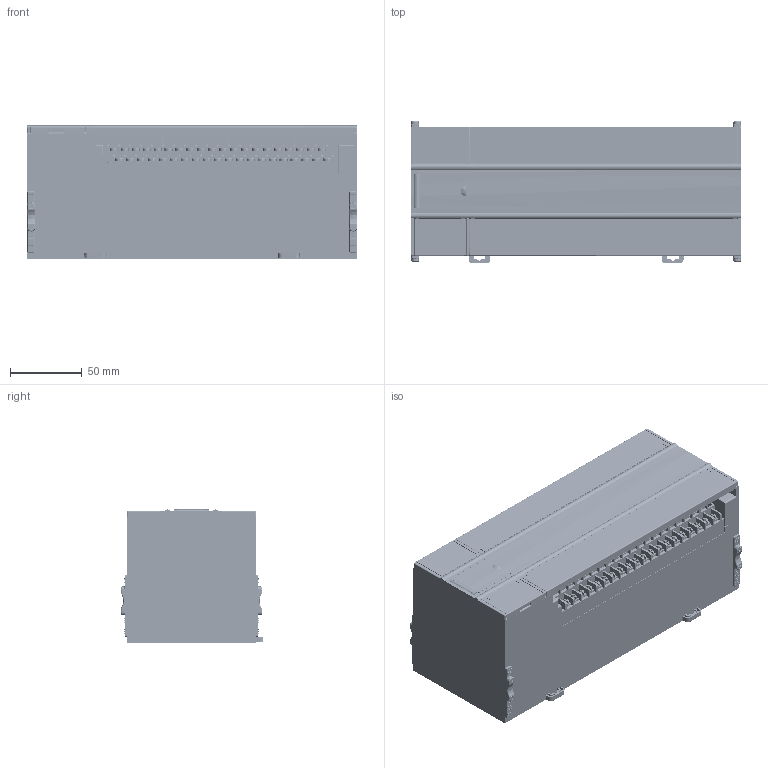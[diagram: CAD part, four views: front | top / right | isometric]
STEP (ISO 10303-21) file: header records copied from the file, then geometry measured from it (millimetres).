
FILE_DESCRIPTION((''),'2;1');
FILE_NAME('0-VC3-3232MAT_ASM','2022-11-11T',('v3615'),(''),'CREO PARAMETRIC BY PTC INC, 2016260','CREO PARAMETRIC BY PTC INC, 2016260','');
FILE_SCHEMA(('AUTOMOTIVE_DESIGN { 1 0 10303 214 1 1 1 1 }'));
Products named in the file (67): PLC_SKEL0001-VC3-3232; VC3-3232MAT-P001; VC3-3232MAT-P001_ASM; VC3-3232MAT-P002; VC1-1614MAT-P005; VC1-1614MAT-P007; VC3-3232MAT-P006_ASM; VC3-3232MAT-P005; VC3-3232MAT-P007_ASM; VC3-3232MAT-P003; VC3-3232MAT-P004; VC1-1614MAT-P003; VC1-1614MAT-P006; VC1-1614MAT-P008; VC1-1614MAT-P010; VC1-1614MAT-P009; VC3-3232MAT-P_ASM; PRT0002; SOP4-100-173A; CAPC2-80-200-440; SD1812; F2-200B; LR4-280-320; SOT23; SR0603; SOP8-50-157; SD2215; SC0805; TO220-3L-9; SOP8-50-155; DO2-170-110-48; LC2-197A; SR1206; CAP2-400-13X5; HEAD0207-TA; TO220-3T-B; CAPC2-400-1000-1000-F; CAP2-400-10X8; SC0603; SR0805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
Assembly tree (145 placements, depth 4):
  0-VC3-3232MAT_ASM
    PLC_SKEL0001-VC3-3232
    VC3-3232MAT-P_ASM
      VC3-3232MAT-P001_ASM
        VC3-3232MAT-P001
      VC3-3232MAT-P006_ASM
        VC3-3232MAT-P002
        VC1-1614MAT-P005  x4
        VC1-1614MAT-P007
      VC3-3232MAT-P007_ASM
        VC3-3232MAT-P005
        VC1-1614MAT-P005  x4
        VC1-1614MAT-P007
      VC3-3232MAT-P003  x2
      VC3-3232MAT-P004
      VC1-1614MAT-P003
      VC1-1614MAT-P006  x2
      VC1-1614MAT-P008
      VC1-1614MAT-P010  x4
      VC1-1614MAT-P009
    VC3-3232MAT-D_ASM
      XXX1-ARAC1_ASM
        PRT0002
        SOP4-100-173A  x2
        CAPC2-80-200-440
        SD1812  x2
        F2-200B
        LR4-280-320
        SOT23  x4
        SR0603  x7
        SOP8-50-157
        SD2215
        SC0805  x14
        TO220-3L-9
        SOP8-50-155
        DO2-170-110-48  x2
        LC2-197A
        SR1206  x8
        CAP2-400-13X5  x2
        HEAD0207-TA
        TO220-3T-B
        CAPC2-400-1000-1000-F
        CAP2-400-10X8
        SC0603  x8
        SR0805  x24
        CAP2-400-7X7
        CAPC2-200-400-500  x2
        SC1206  x2
        T12-200-1200C
        CAPC2-200-400-800
        CAP2-400-13X4
        TB762
        1420050941-VC1AC30POW-A1_1-0712
      VC3-3232MARI1_V01_ASM
        VC3-3232MARI1_V01
        IDC14-90
        IDC14-ORM-A
        PRT0015
        TB762-06-20P-GY6  x2
        VC3MAT3232IO-20220223
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Bounding box: 230.19 x 99.2 x 92.9 mm (x, y, z)
Surface area: 710805.3 mm2
Topology: 134 solids, 144 shells, 17070 faces, 45170 edges, 29125 vertices
Faces by surface type: plane 9544, cylinder 4589, torus 1728, cone 785, bspline 301, sphere 62, extrusion 61
Entity records: 511019 total; most frequent: CARTESIAN_POINT 94239, ORIENTED_EDGE 65700, DIRECTION 60853, EDGE_CURVE 32886, PRESENTATION_STYLE_ASSIGNMENT 29864, STYLED_ITEM 29348, CURVE_STYLE 29148, VECTOR 22233
